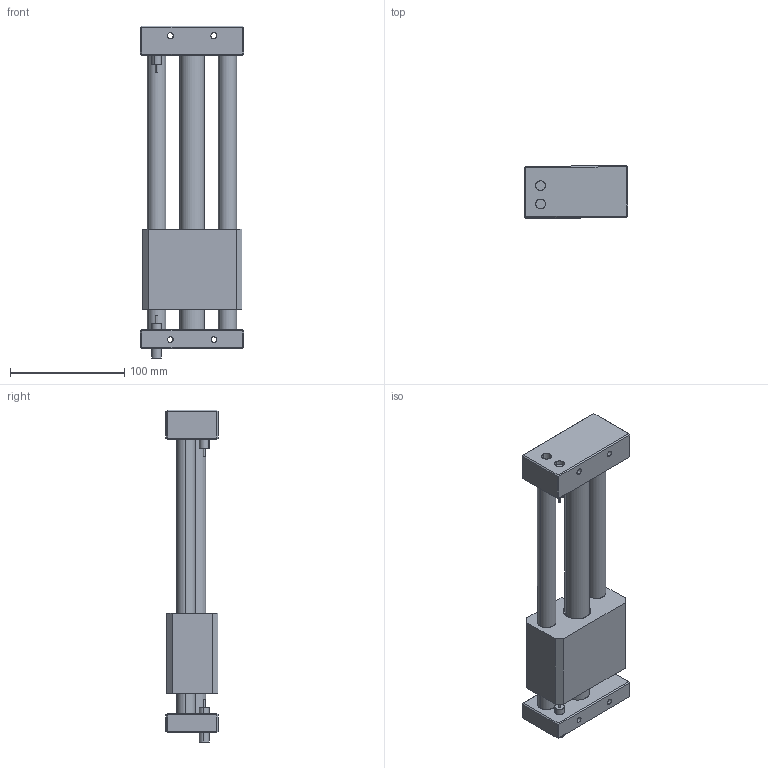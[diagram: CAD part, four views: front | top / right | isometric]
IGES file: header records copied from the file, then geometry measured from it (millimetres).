
Start section: SolidWorks IGES file using analytic representation for surfaces
Global section: file name: D:\Documents de SGA\Pieces 2D et 3D\GRU\iges\Assemblage2.IGS; native system: SolidWorks 2010; preprocessor: SolidWorks 2010; author: SGA; date: 111216.102631; units: millimetre
Bounding box: 90.23 x 45.48 x 290.14 mm (x, y, z)
Surface area: 115389.2 mm2 (no closed solid volume)
Topology: 0 solids, 0 shells, 169 faces, 3142 edges, 3142 vertices
Faces by surface type: bspline 93, revolution 76
